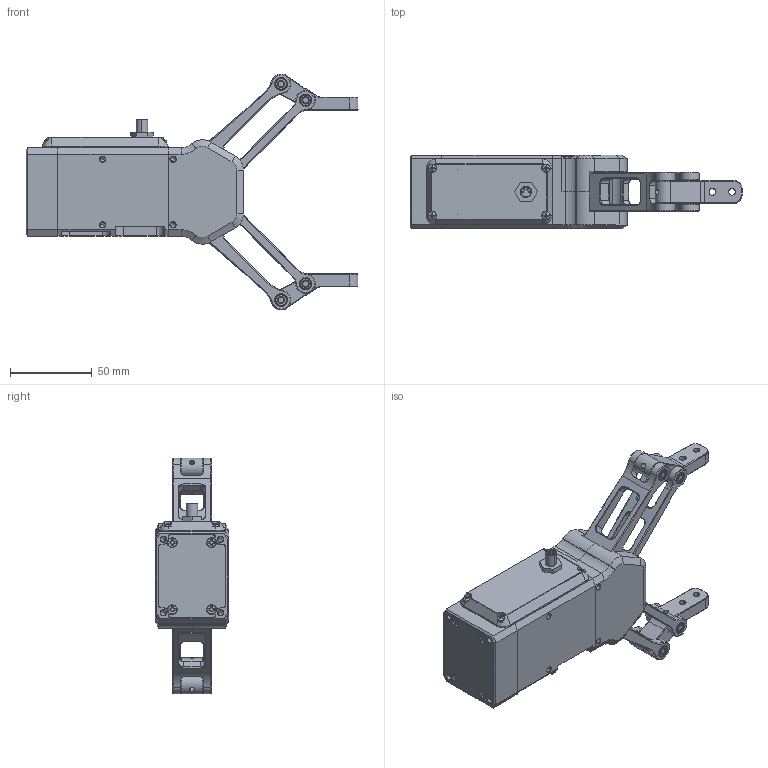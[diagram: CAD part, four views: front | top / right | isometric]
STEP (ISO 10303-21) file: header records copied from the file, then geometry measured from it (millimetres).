
FILE_DESCRIPTION(('CATIA V5 STEP Exchange'),'2;1');
FILE_NAME('F:\工作文件GP\EFG 对外资料\EFG对外资料\EFG-100\EFG-100张开.stp','2019-06-13T08:10:06+00:00',('none'),('none'),'CATIA Version 5 Release 20 GA (IN-10)','CATIA V5 STEP AP203','none');
FILE_SCHEMA(('CONFIG_CONTROL_DESIGN'));
Length unit declared in the file: millimetre
Products named in the file (1): 产品1
Assembly tree (36 placements, depth 2):
  产品1
    #58
    #3753
    #7331
    #12323
    #16570  x2
    #19578  x2
    #22204  x2
    #23879
    #24521
    #25884  x8
    #26350  x4
    #27033  x3
    #27805  x4
    #28732  x4
    #29076
Bounding box: 202.72 x 45 x 143.99 mm (x, y, z)
Volume: 243155.6 mm3; surface area: 113233 mm2
Topology: 36 solids, 37 shells, 1755 faces, 4274 edges, 2612 vertices
Faces by surface type: plane 676, cylinder 580, cone 443, torus 20, bspline 16, sphere 16, extrusion 4
Entity records: 35297 total; most frequent: CARTESIAN_POINT 8280, ORIENTED_EDGE 5828, DIRECTION 4698, EDGE_CURVE 2914, AXIS2_PLACEMENT_3D 2060, VERTEX_POINT 1822, VECTOR 1642, LINE 1638
